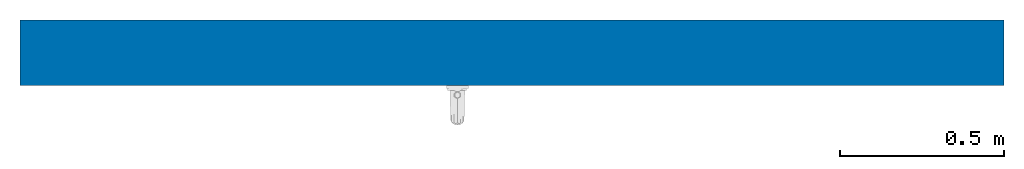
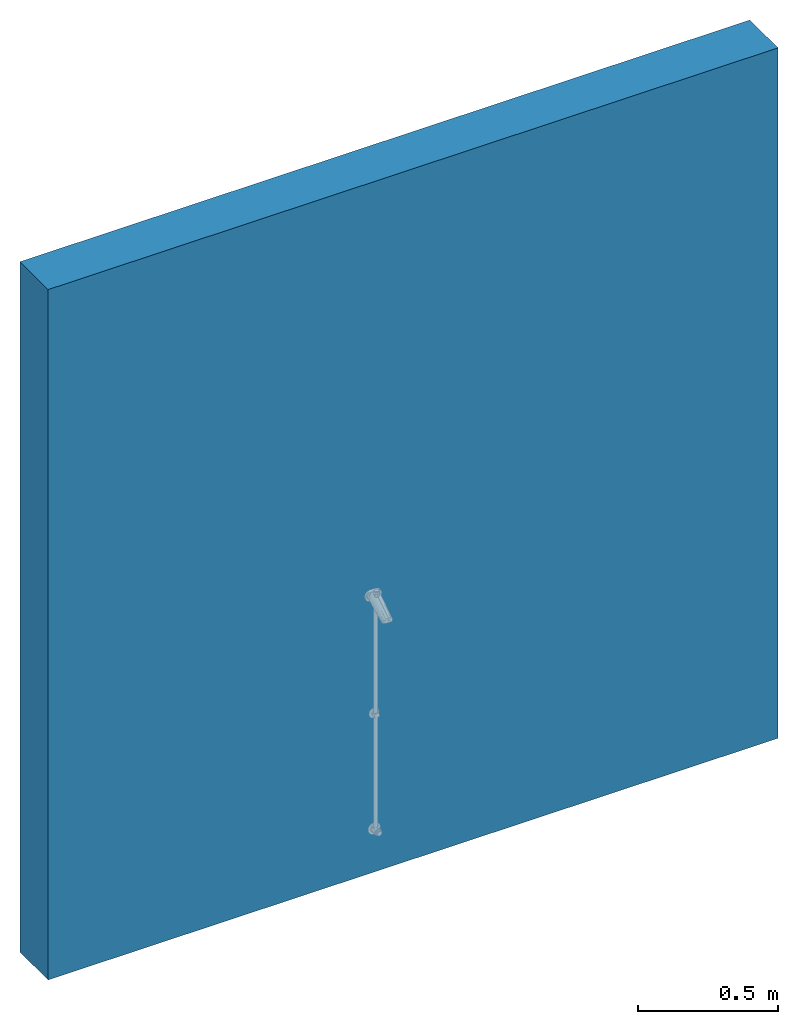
# One storey, incomplete: 1 wall.
"""IFC2X3 building model written with IfcOpenShell, lengths in millimetres."""

from ifc_helpers import new_model, entity, si_unit, converted_unit, frame, frame_2d, origin, place, context, project, spatial, rectangle, extrude, material, layer, layer_set, layer_usage, element, save


model = new_model("IFC2X3")

# Units and contexts
model_context = context("Model", 3, precision=1e-06, world=origin())
plan_context = context("Plan", 3, precision=1e-06, world=origin())
ifc_project = project(units=[si_unit("LENGTHUNIT", "METRE", prefix="MILLI"), si_unit("AREAUNIT", "SQUARE_METRE", prefix="MILLI"), si_unit("VOLUMEUNIT", "CUBIC_METRE", prefix="MILLI"), converted_unit("PLANEANGLEUNIT", "DEGREE", entity("IfcRatioMeasure", 0.01745329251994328), si_unit("PLANEANGLEUNIT", "RADIAN"), dimensions=[0, 0, 0, 0, 0, 0, 0]), si_unit("TIMEUNIT", "SECOND")], contexts=[model_context, plan_context])

# Site, building, storey
site_placement = place(None, origin())
site = spatial("IfcSite", under=ifc_project, at=site_placement, Name="Default", CompositionType="ELEMENT")
building_placement = place(site_placement, origin())
building = spatial("IfcBuilding", under=site, at=building_placement, CompositionType="ELEMENT")
storey_placement = place(building_placement, origin())
storey = spatial("IfcBuildingStorey", under=building, at=storey_placement, Name="Level 1", CompositionType="ELEMENT", Elevation=0.0)

# Wall
ifc_material = material(Name="Default Wall")
ifc_layer = layer(ifc_material, 200.0)
ifc_layer_set = layer_set([ifc_layer], Name="Basic Wall:Generic - 200mm")
ifc_layer_usage = layer_usage(ifc_layer_set, "AXIS2", "NEGATIVE", 100.0)
wall_placement = place(storey_placement, frame((-2203.276582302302, -1023.245875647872, 0.0)))
element("IfcWallStandardCase", 1, at=wall_placement, inside=storey, material=ifc_layer_usage, Name="Basic Wall:Generic - 200mm", ObjectType="Basic Wall:Generic - 200mm:398", context=model_context, shape_type="SweptSolid", body=[
    extrude(rectangle(XDim=3000.0, YDim=200.0, at=frame_2d((1500.0, 0.0), x_axis=(-1.0, 0.0))), origin(), (0.0, 0.0, 1.0), 3000.0),
])

save(model, "model.ifc")
